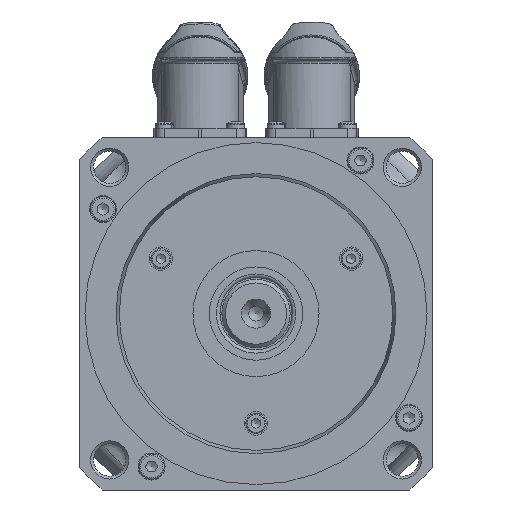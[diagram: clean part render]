
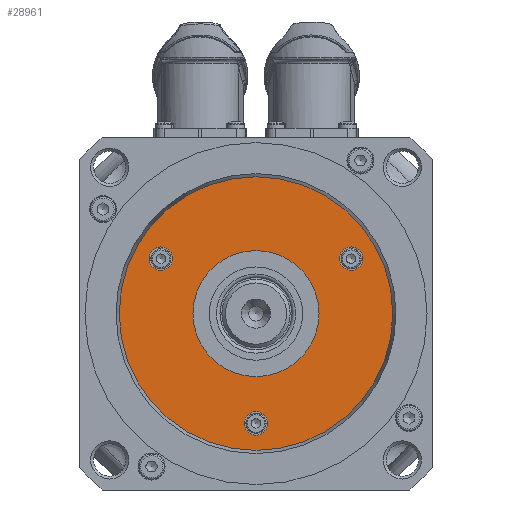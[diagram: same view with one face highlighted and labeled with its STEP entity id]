
A CAD part, left-side view. The second image highlights one B-rep face of the part: STEP entity #28961.
In plain terms, the highlighted planar face has unit normal (-1, 0, 0).
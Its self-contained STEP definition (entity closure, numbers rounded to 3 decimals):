
#1422=FACE_BOUND('',#3986,.T.);
#1423=FACE_BOUND('',#3987,.T.);
#1424=FACE_BOUND('',#3988,.T.);
#1425=FACE_BOUND('',#3989,.T.);
#1675=PLANE('',#31139);
#2260=FACE_OUTER_BOUND('',#3985,.T.);
#3985=EDGE_LOOP('',(#18852,#18853));
#3986=EDGE_LOOP('',(#18854,#18855));
#3987=EDGE_LOOP('',(#18856,#18857));
#3988=EDGE_LOOP('',(#18858,#18859));
#3989=EDGE_LOOP('',(#18860,#18861));
#6023=CIRCLE('',#31069,3.25);
#6024=CIRCLE('',#31070,3.25);
#6028=CIRCLE('',#31077,3.25);
#6029=CIRCLE('',#31078,3.25);
#6033=CIRCLE('',#31085,3.25);
#6034=CIRCLE('',#31086,3.25);
#6059=CIRCLE('',#31140,38.);
#6060=CIRCLE('',#31141,38.);
#6061=CIRCLE('',#31142,17.5);
#6062=CIRCLE('',#31143,17.5);
#10917=VERTEX_POINT('',#43854);
#10918=VERTEX_POINT('',#43855);
#10922=VERTEX_POINT('',#43869);
#10923=VERTEX_POINT('',#43870);
#10927=VERTEX_POINT('',#43884);
#10928=VERTEX_POINT('',#43885);
#10953=VERTEX_POINT('',#43990);
#10954=VERTEX_POINT('',#43991);
#10955=VERTEX_POINT('',#43994);
#10956=VERTEX_POINT('',#43995);
#13871=EDGE_CURVE('',#10917,#10918,#6023,.T.);
#13872=EDGE_CURVE('',#10918,#10917,#6024,.T.);
#13878=EDGE_CURVE('',#10922,#10923,#6028,.T.);
#13879=EDGE_CURVE('',#10923,#10922,#6029,.T.);
#13885=EDGE_CURVE('',#10927,#10928,#6033,.T.);
#13886=EDGE_CURVE('',#10928,#10927,#6034,.T.);
#13936=EDGE_CURVE('',#10953,#10954,#6059,.T.);
#13937=EDGE_CURVE('',#10954,#10953,#6060,.T.);
#13938=EDGE_CURVE('',#10955,#10956,#6061,.T.);
#13939=EDGE_CURVE('',#10956,#10955,#6062,.T.);
#18852=ORIENTED_EDGE('',*,*,#13936,.F.);
#18853=ORIENTED_EDGE('',*,*,#13937,.F.);
#18854=ORIENTED_EDGE('',*,*,#13871,.T.);
#18855=ORIENTED_EDGE('',*,*,#13872,.T.);
#18856=ORIENTED_EDGE('',*,*,#13878,.T.);
#18857=ORIENTED_EDGE('',*,*,#13879,.T.);
#18858=ORIENTED_EDGE('',*,*,#13885,.T.);
#18859=ORIENTED_EDGE('',*,*,#13886,.T.);
#18860=ORIENTED_EDGE('',*,*,#13938,.T.);
#18861=ORIENTED_EDGE('',*,*,#13939,.T.);
#28961=ADVANCED_FACE('',(#2260,#1422,#1423,#1424,#1425),#1675,.T.);
#31069=AXIS2_PLACEMENT_3D('',#43856,#35238,#35239);
#31070=AXIS2_PLACEMENT_3D('',#43857,#35240,#35241);
#31077=AXIS2_PLACEMENT_3D('',#43871,#35256,#35257);
#31078=AXIS2_PLACEMENT_3D('',#43872,#35258,#35259);
#31085=AXIS2_PLACEMENT_3D('',#43886,#35274,#35275);
#31086=AXIS2_PLACEMENT_3D('',#43887,#35276,#35277);
#31139=AXIS2_PLACEMENT_3D('',#43989,#35407,#35408);
#31140=AXIS2_PLACEMENT_3D('',#43992,#35409,#35410);
#31141=AXIS2_PLACEMENT_3D('',#43993,#35411,#35412);
#31142=AXIS2_PLACEMENT_3D('',#43996,#35413,#35414);
#31143=AXIS2_PLACEMENT_3D('',#43997,#35415,#35416);
#35238=DIRECTION('center_axis',(1.,0.,0.));
#35239=DIRECTION('ref_axis',(0.,0.5,0.866));
#35240=DIRECTION('center_axis',(1.,0.,0.));
#35241=DIRECTION('ref_axis',(0.,0.5,0.866));
#35256=DIRECTION('center_axis',(1.,0.,0.));
#35257=DIRECTION('ref_axis',(0.,0.5,-0.866));
#35258=DIRECTION('center_axis',(1.,0.,0.));
#35259=DIRECTION('ref_axis',(0.,0.5,-0.866));
#35274=DIRECTION('center_axis',(1.,0.,0.));
#35275=DIRECTION('ref_axis',(0.,-1.,0.));
#35276=DIRECTION('center_axis',(1.,0.,0.));
#35277=DIRECTION('ref_axis',(0.,-1.,0.));
#35407=DIRECTION('center_axis',(-1.,0.,0.));
#35408=DIRECTION('ref_axis',(0.,-1.,0.));
#35409=DIRECTION('center_axis',(1.,0.,0.));
#35410=DIRECTION('ref_axis',(0.,1.,0.));
#35411=DIRECTION('center_axis',(1.,0.,0.));
#35412=DIRECTION('ref_axis',(0.,1.,0.));
#35413=DIRECTION('center_axis',(1.,0.,0.));
#35414=DIRECTION('ref_axis',(0.,1.,0.));
#35415=DIRECTION('center_axis',(1.,0.,0.));
#35416=DIRECTION('ref_axis',(0.,1.,0.));
#43854=CARTESIAN_POINT('',(-64.75,-24.789,18.065));
#43855=CARTESIAN_POINT('',(-64.75,-28.039,12.435));
#43856=CARTESIAN_POINT('Origin',(-64.75,-26.414,15.25));
#43857=CARTESIAN_POINT('Origin',(-64.75,-26.414,15.25));
#43869=CARTESIAN_POINT('',(-64.75,28.039,12.435));
#43870=CARTESIAN_POINT('',(-64.75,24.789,18.065));
#43871=CARTESIAN_POINT('Origin',(-64.75,26.414,15.25));
#43872=CARTESIAN_POINT('Origin',(-64.75,26.414,15.25));
#43884=CARTESIAN_POINT('',(-64.75,-3.25,-30.5));
#43885=CARTESIAN_POINT('',(-64.75,3.25,-30.5));
#43886=CARTESIAN_POINT('Origin',(-64.75,0.,-30.5));
#43887=CARTESIAN_POINT('Origin',(-64.75,0.,-30.5));
#43989=CARTESIAN_POINT('Origin',(-64.75,0.,38.));
#43990=CARTESIAN_POINT('',(-64.75,0.,38.));
#43991=CARTESIAN_POINT('',(-64.75,0.,-38.));
#43992=CARTESIAN_POINT('Origin',(-64.75,0.,0.));
#43993=CARTESIAN_POINT('Origin',(-64.75,0.,0.));
#43994=CARTESIAN_POINT('',(-64.75,0.,17.5));
#43995=CARTESIAN_POINT('',(-64.75,0.,-17.5));
#43996=CARTESIAN_POINT('Origin',(-64.75,0.,0.));
#43997=CARTESIAN_POINT('Origin',(-64.75,0.,0.));
